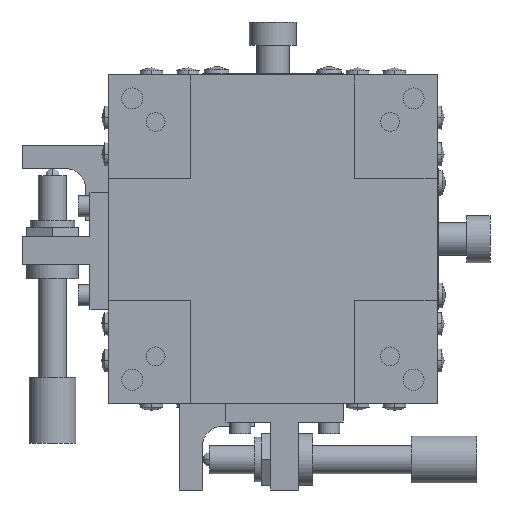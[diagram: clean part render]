
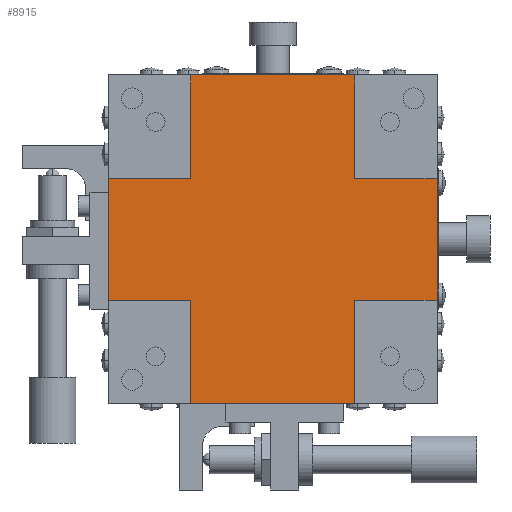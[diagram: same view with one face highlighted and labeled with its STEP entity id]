
A CAD part, front view. The second image highlights one B-rep face of the part: STEP entity #8915.
In plain terms, the highlighted planar face has unit normal (0, -1, 0).
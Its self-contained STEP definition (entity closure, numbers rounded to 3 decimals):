
#495 = VECTOR ( 'NONE', #5676, 1000. ) ;
#564 = AXIS2_PLACEMENT_3D ( 'NONE', #10412, #10425, #10426 ) ;
#617 = VECTOR ( 'NONE', #10642, 1000. ) ;
#623 = VECTOR ( 'NONE', #10654, 1000. ) ;
#625 = VECTOR ( 'NONE', #10648, 1000. ) ;
#627 = VECTOR ( 'NONE', #10660, 1000. ) ;
#629 = VECTOR ( 'NONE', #10671, 1000. ) ;
#630 = VECTOR ( 'NONE', #10663, 1000. ) ;
#633 = VECTOR ( 'NONE', #10676, 1000. ) ;
#651 = VECTOR ( 'NONE', #10716, 1000. ) ;
#1412 = EDGE_CURVE ( 'NONE', #8497, #8489, #2036, .T. ) ;
#1413 = EDGE_CURVE ( 'NONE', #8500, #8497, #2035, .T. ) ;
#1414 = EDGE_CURVE ( 'NONE', #8500, #8484, #2047, .T. ) ;
#2035 = LINE ( 'NONE', #2045, #4198 ) ;
#2036 = LINE ( 'NONE', #2042, #4193 ) ;
#2042 = CARTESIAN_POINT ( 'NONE',  ( -17.5, 0.5, 42.141 ) ) ;
#2044 = DIRECTION ( 'NONE',  ( 0., 0., -1. ) ) ;
#2045 = CARTESIAN_POINT ( 'NONE',  ( 0., 0.5, 0. ) ) ;
#2046 = DIRECTION ( 'NONE',  ( -1., 0., 0. ) ) ;
#2047 = LINE ( 'NONE', #2048, #4200 ) ;
#2048 = CARTESIAN_POINT ( 'NONE',  ( 17.5, 0.5, 42.141 ) ) ;
#2049 = DIRECTION ( 'NONE',  ( 0., 0., -1. ) ) ;
#4193 = VECTOR ( 'NONE', #2044, 1000. ) ;
#4198 = VECTOR ( 'NONE', #2046, 1000. ) ;
#4200 = VECTOR ( 'NONE', #2049, 1000. ) ;
#4534 = EDGE_LOOP ( 'NONE', ( #6279, #6280, #6281, #6283, #6285, #6287, #6288, #6289, #6291, #6293, #6295, #6296 ) ) ;
#5271 = CARTESIAN_POINT ( 'NONE',  ( -35., 0.5, -48. ) ) ;
#5272 = CARTESIAN_POINT ( 'NONE',  ( -35., 0.5, -22. ) ) ;
#5277 = CARTESIAN_POINT ( 'NONE',  ( 35., 0.5, -48. ) ) ;
#5282 = CARTESIAN_POINT ( 'NONE',  ( 35., 0.5, -22. ) ) ;
#5285 = CARTESIAN_POINT ( 'NONE',  ( 17.5, 0.5, -22. ) ) ;
#5289 = CARTESIAN_POINT ( 'NONE',  ( -17.5, 0.5, -70. ) ) ;
#5290 = CARTESIAN_POINT ( 'NONE',  ( -17.5, 0.5, -22. ) ) ;
#5292 = CARTESIAN_POINT ( 'NONE',  ( -17.5, 0.5, -48. ) ) ;
#5294 = CARTESIAN_POINT ( 'NONE',  ( 17.5, 0.5, -70. ) ) ;
#5295 = CARTESIAN_POINT ( 'NONE',  ( 17.5, 0.5, -48. ) ) ;
#5298 = CARTESIAN_POINT ( 'NONE',  ( -17.5, 0.5, 0. ) ) ;
#5301 = CARTESIAN_POINT ( 'NONE',  ( 17.5, 0.5, 0. ) ) ;
#5674 = LINE ( 'NONE', #5675, #495 ) ;
#5675 = CARTESIAN_POINT ( 'NONE',  ( -35., 0.5, 42.141 ) ) ;
#5676 = DIRECTION ( 'NONE',  ( 0., 0., -1. ) ) ;
#6279 = ORIENTED_EDGE ( 'NONE', *, *, #8992, .T. ) ;
#6280 = ORIENTED_EDGE ( 'NONE', *, *, #8994, .T. ) ;
#6281 = ORIENTED_EDGE ( 'NONE', *, *, #8996, .F. ) ;
#6283 = ORIENTED_EDGE ( 'NONE', *, *, #9015, .T. ) ;
#6285 = ORIENTED_EDGE ( 'NONE', *, *, #8997, .T. ) ;
#6287 = ORIENTED_EDGE ( 'NONE', *, *, #1414, .F. ) ;
#6288 = ORIENTED_EDGE ( 'NONE', *, *, #1413, .T. ) ;
#6289 = ORIENTED_EDGE ( 'NONE', *, *, #1412, .T. ) ;
#6291 = ORIENTED_EDGE ( 'NONE', *, *, #8990, .F. ) ;
#6293 = ORIENTED_EDGE ( 'NONE', *, *, #8855, .T. ) ;
#6295 = ORIENTED_EDGE ( 'NONE', *, *, #9000, .T. ) ;
#6296 = ORIENTED_EDGE ( 'NONE', *, *, #9002, .F. ) ;
#8470 = VERTEX_POINT ( 'NONE', #5271 ) ;
#8471 = VERTEX_POINT ( 'NONE', #5272 ) ;
#8476 = VERTEX_POINT ( 'NONE', #5277 ) ;
#8481 = VERTEX_POINT ( 'NONE', #5282 ) ;
#8484 = VERTEX_POINT ( 'NONE', #5285 ) ;
#8488 = VERTEX_POINT ( 'NONE', #5289 ) ;
#8489 = VERTEX_POINT ( 'NONE', #5290 ) ;
#8491 = VERTEX_POINT ( 'NONE', #5292 ) ;
#8493 = VERTEX_POINT ( 'NONE', #5294 ) ;
#8494 = VERTEX_POINT ( 'NONE', #5295 ) ;
#8497 = VERTEX_POINT ( 'NONE', #5298 ) ;
#8500 = VERTEX_POINT ( 'NONE', #5301 ) ;
#8855 = EDGE_CURVE ( 'NONE', #8471, #8470, #5674, .T. ) ;
#8915 = ADVANCED_FACE ( 'NONE', ( #10422 ), #10423, .T. ) ;
#8990 = EDGE_CURVE ( 'NONE', #8471, #8489, #10635, .T. ) ;
#8992 = EDGE_CURVE ( 'NONE', #8488, #8493, #10646, .T. ) ;
#8994 = EDGE_CURVE ( 'NONE', #8493, #8494, #10634, .T. ) ;
#8996 = EDGE_CURVE ( 'NONE', #8476, #8494, #10639, .T. ) ;
#8997 = EDGE_CURVE ( 'NONE', #8481, #8484, #10661, .T. ) ;
#9000 = EDGE_CURVE ( 'NONE', #8470, #8491, #10650, .T. ) ;
#9002 = EDGE_CURVE ( 'NONE', #8488, #8491, #10656, .T. ) ;
#9015 = EDGE_CURVE ( 'NONE', #8476, #8481, #10714, .T. ) ;
#10412 = CARTESIAN_POINT ( 'NONE',  ( 0., 0.5, 42.141 ) ) ;
#10422 = FACE_OUTER_BOUND ( 'NONE', #4534, .T. ) ;
#10423 = PLANE ( 'NONE',  #564 ) ;
#10425 = DIRECTION ( 'NONE',  ( 0., -1., 0. ) ) ;
#10426 = DIRECTION ( 'NONE',  ( 0., 0., 1. ) ) ;
#10634 = LINE ( 'NONE', #10653, #623 ) ;
#10635 = LINE ( 'NONE', #10641, #617 ) ;
#10639 = LINE ( 'NONE', #10659, #627 ) ;
#10641 = CARTESIAN_POINT ( 'NONE',  ( 0., 0.5, -22. ) ) ;
#10642 = DIRECTION ( 'NONE',  ( 1., 0., 0. ) ) ;
#10646 = LINE ( 'NONE', #10647, #625 ) ;
#10647 = CARTESIAN_POINT ( 'NONE',  ( 0., 0.5, -70. ) ) ;
#10648 = DIRECTION ( 'NONE',  ( 1., 0., 0. ) ) ;
#10650 = LINE ( 'NONE', #10670, #629 ) ;
#10653 = CARTESIAN_POINT ( 'NONE',  ( 17.5, 0.5, 42.141 ) ) ;
#10654 = DIRECTION ( 'NONE',  ( 0., 0., 1. ) ) ;
#10656 = LINE ( 'NONE', #10675, #633 ) ;
#10659 = CARTESIAN_POINT ( 'NONE',  ( 0., 0.5, -48. ) ) ;
#10660 = DIRECTION ( 'NONE',  ( -1., 0., 0. ) ) ;
#10661 = LINE ( 'NONE', #10662, #630 ) ;
#10662 = CARTESIAN_POINT ( 'NONE',  ( 0., 0.5, -22. ) ) ;
#10663 = DIRECTION ( 'NONE',  ( -1., 0., 0. ) ) ;
#10670 = CARTESIAN_POINT ( 'NONE',  ( 0., 0.5, -48. ) ) ;
#10671 = DIRECTION ( 'NONE',  ( 1., 0., 0. ) ) ;
#10675 = CARTESIAN_POINT ( 'NONE',  ( -17.5, 0.5, 42.141 ) ) ;
#10676 = DIRECTION ( 'NONE',  ( 0., 0., 1. ) ) ;
#10714 = LINE ( 'NONE', #10715, #651 ) ;
#10715 = CARTESIAN_POINT ( 'NONE',  ( 35., 0.5, 42.141 ) ) ;
#10716 = DIRECTION ( 'NONE',  ( 0., 0., 1. ) ) ;
